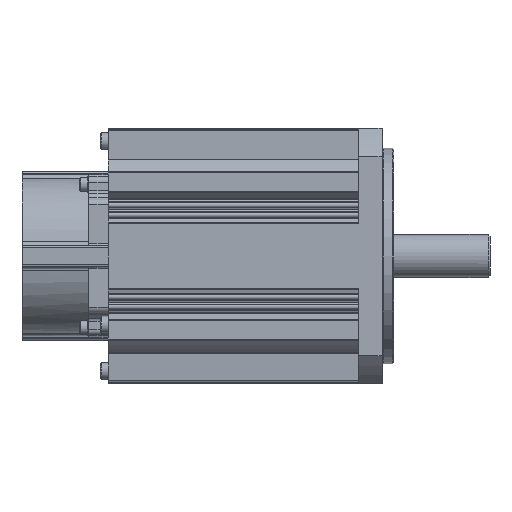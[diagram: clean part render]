
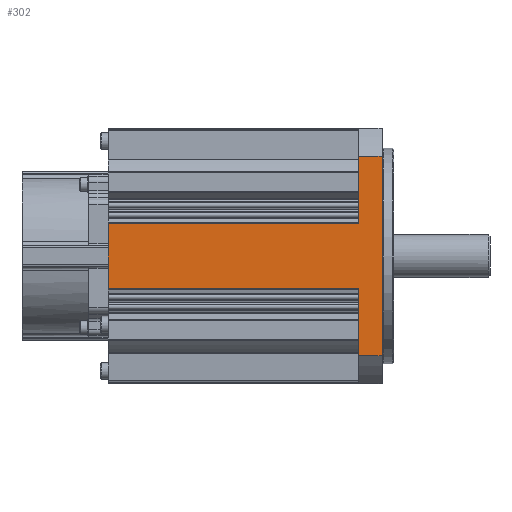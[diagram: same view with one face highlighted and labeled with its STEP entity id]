
A CAD part, front view. The second image highlights one B-rep face of the part: STEP entity #302.
In plain terms, the highlighted planar face has unit normal (0, -1, 0).
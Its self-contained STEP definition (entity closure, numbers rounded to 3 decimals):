
#302 = ADVANCED_FACE( '', ( #1114 ), #1115, .T. );
#1114 = FACE_OUTER_BOUND( '', #2333, .T. );
#1115 = PLANE( '', #2334 );
#2333 = EDGE_LOOP( '', ( #5109, #5110, #5111, #5112, #5113, #5114, #5115, #5116 ) );
#2334 = AXIS2_PLACEMENT_3D( '', #5117, #5118, #5119 );
#5109 = ORIENTED_EDGE( '', *, *, #7922, .F. );
#5110 = ORIENTED_EDGE( '', *, *, #8173, .T. );
#5111 = ORIENTED_EDGE( '', *, *, #8135, .F. );
#5112 = ORIENTED_EDGE( '', *, *, #8174, .F. );
#5113 = ORIENTED_EDGE( '', *, *, #7586, .F. );
#5114 = ORIENTED_EDGE( '', *, *, #7594, .T. );
#5115 = ORIENTED_EDGE( '', *, *, #8124, .T. );
#5116 = ORIENTED_EDGE( '', *, *, #7592, .F. );
#5117 = CARTESIAN_POINT( '', ( -139.5, -65., 50.806 ) );
#5118 = DIRECTION( '', ( 0., -1., 0. ) );
#5119 = DIRECTION( '', ( 0., 0., -1. ) );
#7586 = EDGE_CURVE( '', #9096, #9098, #9099, .T. );
#7592 = EDGE_CURVE( '', #9108, #9103, #9110, .T. );
#7594 = EDGE_CURVE( '', #9096, #9112, #9114, .T. );
#7922 = EDGE_CURVE( '', #9668, #9108, #9669, .T. );
#8124 = EDGE_CURVE( '', #9112, #9103, #10000, .T. );
#8135 = EDGE_CURVE( '', #10019, #10021, #10022, .T. );
#8173 = EDGE_CURVE( '', #9668, #10021, #10094, .T. );
#8174 = EDGE_CURVE( '', #9098, #10019, #10095, .T. );
#9096 = VERTEX_POINT( '', #11742 );
#9098 = VERTEX_POINT( '', #11744 );
#9099 = LINE( '', #11745, #11746 );
#9103 = VERTEX_POINT( '', #11750 );
#9108 = VERTEX_POINT( '', #11756 );
#9110 = LINE( '', #11758, #11759 );
#9112 = VERTEX_POINT( '', #11761 );
#9114 = LINE( '', #11763, #11764 );
#9668 = VERTEX_POINT( '', #12502 );
#9669 = LINE( '', #12503, #12504 );
#10000 = LINE( '', #12960, #12961 );
#10019 = VERTEX_POINT( '', #12981 );
#10021 = VERTEX_POINT( '', #12983 );
#10022 = LINE( '', #12984, #12985 );
#10094 = LINE( '', #13084, #13085 );
#10095 = LINE( '', #13086, #13087 );
#11742 = CARTESIAN_POINT( '', ( -12., -65., 16.424 ) );
#11744 = CARTESIAN_POINT( '', ( -12., -65., 50.806 ) );
#11745 = CARTESIAN_POINT( '', ( -12., -65., 50.806 ) );
#11746 = VECTOR( '', #14732, 1000. );
#11750 = CARTESIAN_POINT( '', ( -139.5, -65., -16.424 ) );
#11756 = CARTESIAN_POINT( '', ( -12., -65., -16.424 ) );
#11758 = CARTESIAN_POINT( '', ( -12., -65., -16.424 ) );
#11759 = VECTOR( '', #14746, 1000. );
#11761 = CARTESIAN_POINT( '', ( -139.5, -65., 16.424 ) );
#11763 = CARTESIAN_POINT( '', ( -12., -65., 16.424 ) );
#11764 = VECTOR( '', #14750, 1000. );
#12502 = CARTESIAN_POINT( '', ( -12., -65., -50.806 ) );
#12503 = CARTESIAN_POINT( '', ( -12., -65., 50.806 ) );
#12504 = VECTOR( '', #15364, 1000. );
#12960 = CARTESIAN_POINT( '', ( -139.5, -65., 50.806 ) );
#12961 = VECTOR( '', #15718, 1000. );
#12981 = CARTESIAN_POINT( '', ( 0., -65., 50.806 ) );
#12983 = CARTESIAN_POINT( '', ( 0., -65., -50.806 ) );
#12984 = CARTESIAN_POINT( '', ( 0., -65., 50.806 ) );
#12985 = VECTOR( '', #15747, 1000. );
#13084 = CARTESIAN_POINT( '', ( -139.5, -65., -50.806 ) );
#13085 = VECTOR( '', #15805, 1000. );
#13086 = CARTESIAN_POINT( '', ( -139.5, -65., 50.806 ) );
#13087 = VECTOR( '', #15806, 1000. );
#14732 = DIRECTION( '', ( 0., 0., 1. ) );
#14746 = DIRECTION( '', ( -1., 0., 0. ) );
#14750 = DIRECTION( '', ( -1., 0., 0. ) );
#15364 = DIRECTION( '', ( 0., 0., 1. ) );
#15718 = DIRECTION( '', ( 0., 0., -1. ) );
#15747 = DIRECTION( '', ( 0., 0., -1. ) );
#15805 = DIRECTION( '', ( 1., 0., 0. ) );
#15806 = DIRECTION( '', ( 1., 0., 0. ) );
